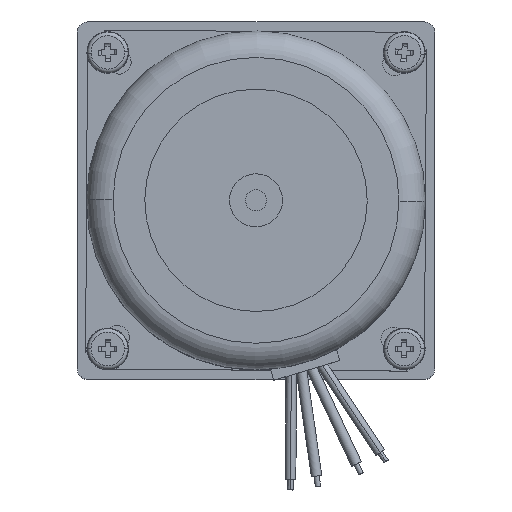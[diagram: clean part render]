
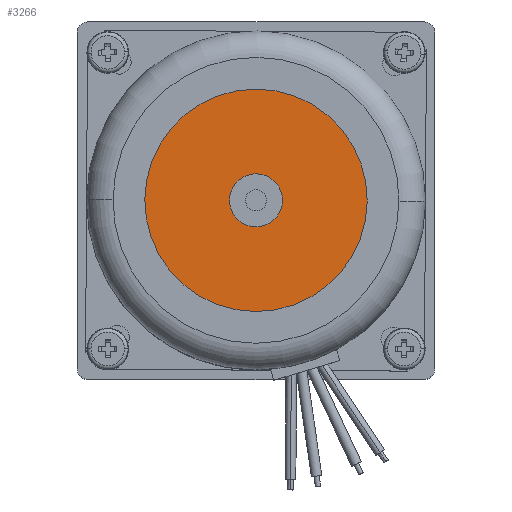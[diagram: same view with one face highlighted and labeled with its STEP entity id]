
A CAD part, top view. The second image highlights one B-rep face of the part: STEP entity #3266.
In plain terms, the highlighted planar face has unit normal (0, 0, 1) as drawn and (0, 0, -1) by its records, which use the part's own axes.
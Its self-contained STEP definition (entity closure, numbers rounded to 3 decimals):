
#926 = EDGE_CURVE ( 'NONE', #1416, #2410, #5898, .T. ) ;
#1410 = CARTESIAN_POINT ( 'NONE',  ( 21., 0., -43. ) ) ;
#1416 = VERTEX_POINT ( 'NONE', #4960 ) ;
#1532 = CARTESIAN_POINT ( 'NONE',  ( -5., 0., -43. ) ) ;
#1651 = ORIENTED_EDGE ( 'NONE', *, *, #5211, .T. ) ;
#1655 = ORIENTED_EDGE ( 'NONE', *, *, #926, .T. ) ;
#1997 = DIRECTION ( 'NONE',  ( 1., 0., 0. ) ) ;
#1998 = DIRECTION ( 'NONE',  ( 0., 0., 1. ) ) ;
#2008 = CARTESIAN_POINT ( 'NONE',  ( 0., 0., -43. ) ) ;
#2031 = AXIS2_PLACEMENT_3D ( 'NONE', #5567, #5526, #5519 ) ;
#2410 = VERTEX_POINT ( 'NONE', #1532 ) ;
#2545 = AXIS2_PLACEMENT_3D ( 'NONE', #5726, #5724, #5718 ) ;
#2625 = ORIENTED_EDGE ( 'NONE', *, *, #4367, .F. ) ;
#2642 = CIRCLE ( 'NONE', #4642, 21. ) ;
#2698 = CIRCLE ( 'NONE', #3993, 21. ) ;
#3266 = ADVANCED_FACE ( 'NONE', ( #3382, #3978 ), #5646, .T. ) ;
#3382 = FACE_BOUND ( 'NONE', #4482, .T. ) ;
#3978 = FACE_OUTER_BOUND ( 'NONE', #4357, .T. ) ;
#3993 = AXIS2_PLACEMENT_3D ( 'NONE', #2008, #1998, #1997 ) ;
#4057 = DIRECTION ( 'NONE',  ( 1., 0., 0. ) ) ;
#4061 = DIRECTION ( 'NONE',  ( 0., 0., 1. ) ) ;
#4062 = CARTESIAN_POINT ( 'NONE',  ( 0., 0., -43. ) ) ;
#4357 = EDGE_LOOP ( 'NONE', ( #6380, #2625 ) ) ;
#4367 = EDGE_CURVE ( 'NONE', #5068, #4533, #2698, .T. ) ;
#4482 = EDGE_LOOP ( 'NONE', ( #1655, #1651 ) ) ;
#4533 = VERTEX_POINT ( 'NONE', #1410 ) ;
#4585 = AXIS2_PLACEMENT_3D ( 'NONE', #5319, #5220, #5252 ) ;
#4642 = AXIS2_PLACEMENT_3D ( 'NONE', #4062, #4061, #4057 ) ;
#4960 = CARTESIAN_POINT ( 'NONE',  ( 5., 0., -43. ) ) ;
#5003 = CIRCLE ( 'NONE', #2545, 5. ) ;
#5068 = VERTEX_POINT ( 'NONE', #6333 ) ;
#5211 = EDGE_CURVE ( 'NONE', #2410, #1416, #5003, .T. ) ;
#5220 = DIRECTION ( 'NONE',  ( 0., 0., 1. ) ) ;
#5252 = DIRECTION ( 'NONE',  ( 1., 0., 0. ) ) ;
#5319 = CARTESIAN_POINT ( 'NONE',  ( 0., 0., -43. ) ) ;
#5519 = DIRECTION ( 'NONE',  ( -1., 0., 0. ) ) ;
#5526 = DIRECTION ( 'NONE',  ( 0., 0., -1. ) ) ;
#5567 = CARTESIAN_POINT ( 'NONE',  ( 0., 21., -43. ) ) ;
#5635 = EDGE_CURVE ( 'NONE', #4533, #5068, #2642, .T. ) ;
#5646 = PLANE ( 'NONE',  #2031 ) ;
#5718 = DIRECTION ( 'NONE',  ( 1., 0., 0. ) ) ;
#5724 = DIRECTION ( 'NONE',  ( 0., 0., 1. ) ) ;
#5726 = CARTESIAN_POINT ( 'NONE',  ( 0., 0., -43. ) ) ;
#5898 = CIRCLE ( 'NONE', #4585, 5. ) ;
#6333 = CARTESIAN_POINT ( 'NONE',  ( -21., 0., -43. ) ) ;
#6380 = ORIENTED_EDGE ( 'NONE', *, *, #5635, .F. ) ;
